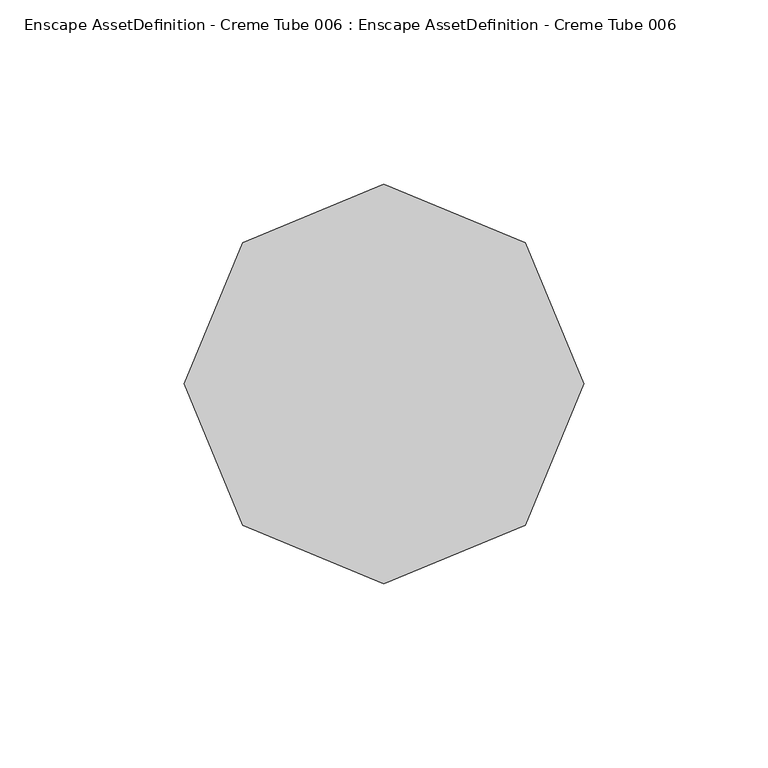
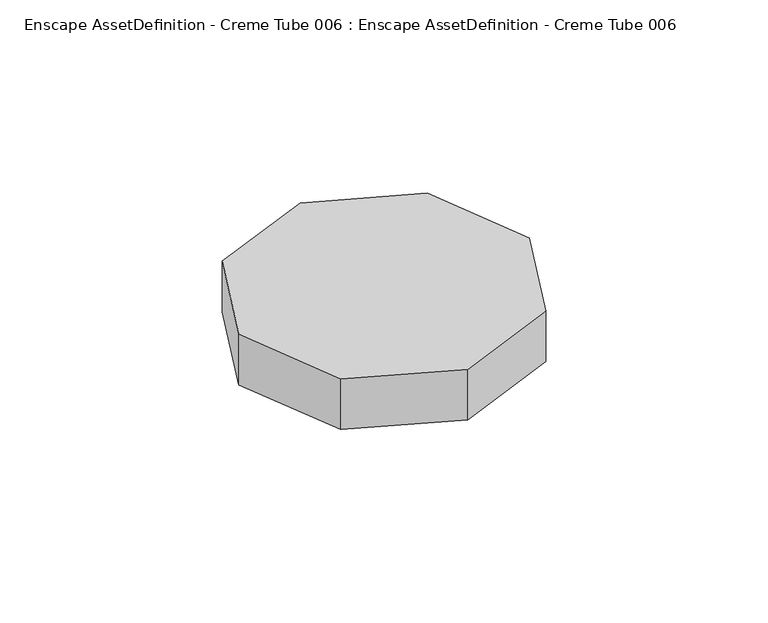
"""IFC4 building model written with IfcOpenShell, lengths in millimetres: geographic element geometry, Enscape AssetDefinition - Creme Tube 006 : Enscape AssetDefinition - Creme Tube 006."""

from ifc_helpers import new_model, si_unit, origin, place, context, project, spatial, triangles, source, transform, mapped, element, save


def enscape_assetdefinition_creme_tube_006_enscape_695fccb8(model_context):
    return source(origin(), model_context, "Body", "Tessellation", [
        triangles([(38.2760022, 38.2760022, 0.598), (0.0, 54.129999, 20.5980001), (38.2760022, 38.2760022, 20.5980001), (0.0, 54.129999, 0.598), (54.129999, 0.0, 20.5980001), (0.0, -54.129999, 0.598), (-54.129999, 0.0, 0.598), (38.2760022, -38.2760022, 0.598), (54.129999, 0.0, 0.598), (-38.2760022, 38.2760022, 20.5980001), (-38.2760022, 38.2760022, 0.598), (-54.129999, 0.0, 20.5980001), (-38.2760022, -38.2760022, 20.5980001), (-38.2760022, -38.2760022, 0.598), (0.0, -54.129999, 20.5980001), (38.2760022, -38.2760022, 20.5980001)], [[6, 8, 16], [8, 5, 16], [15, 16, 5], [15, 5, 2], [6, 16, 15], [14, 6, 15], [13, 15, 2], [14, 15, 13], [12, 13, 2], [2, 10, 12], [6, 14, 7], [7, 14, 13], [7, 13, 12], [11, 7, 12], [11, 12, 10], [4, 11, 10], [4, 10, 2], [9, 8, 6], [11, 4, 9], [7, 11, 9], [8, 9, 5], [9, 6, 7], [5, 3, 2], [9, 3, 5], [4, 1, 9], [9, 1, 3], [1, 4, 2], [1, 2, 3]]),
    ])


if __name__ == "__main__":
    model = new_model("IFC4")
    model_context = context("Model", 3, world=origin())
    ifc_project = project(units=[si_unit("LENGTHUNIT", "METRE", prefix="MILLI")], contexts=[model_context])
    site = spatial("IfcSite", under=ifc_project)
    building = spatial("IfcBuilding", under=site)
    placement = place(None, origin())
    enscape_assetdefinition_creme_tube_006_enscape_shape = enscape_assetdefinition_creme_tube_006_enscape_695fccb8(model_context)
    element("IfcGeographicElement", 1, ObjectType="Enscape AssetDefinition - Creme Tube 006 : Enscape AssetDefinition - Creme Tube 006", at=placement, inside=building, context=model_context, shape_type="MappedRepresentation", body=[
        mapped(enscape_assetdefinition_creme_tube_006_enscape_shape, transform((0.0, 0.0, 0.0), x_axis=(1.0, 0.0, 0.0), y_axis=(0.0, 1.0, 0.0), z_axis=(0.0, 0.0, 1.0))),
    ])
    save(model, "model.ifc")
